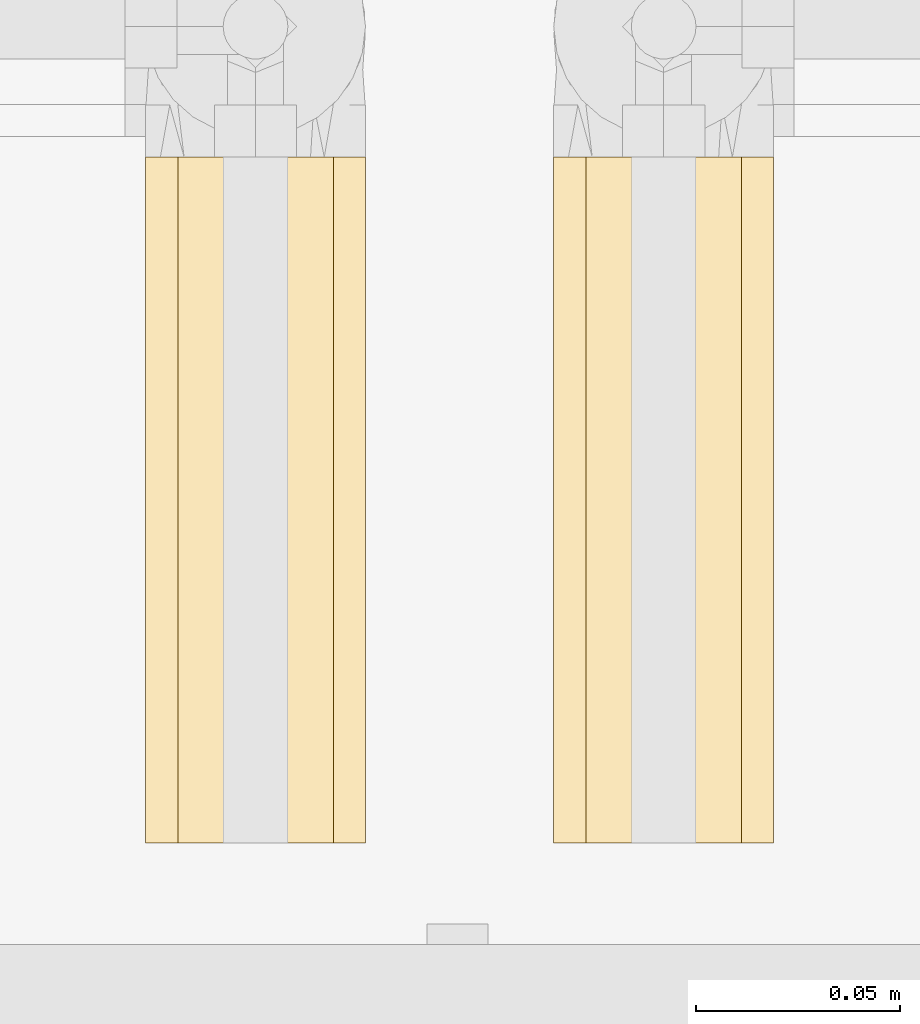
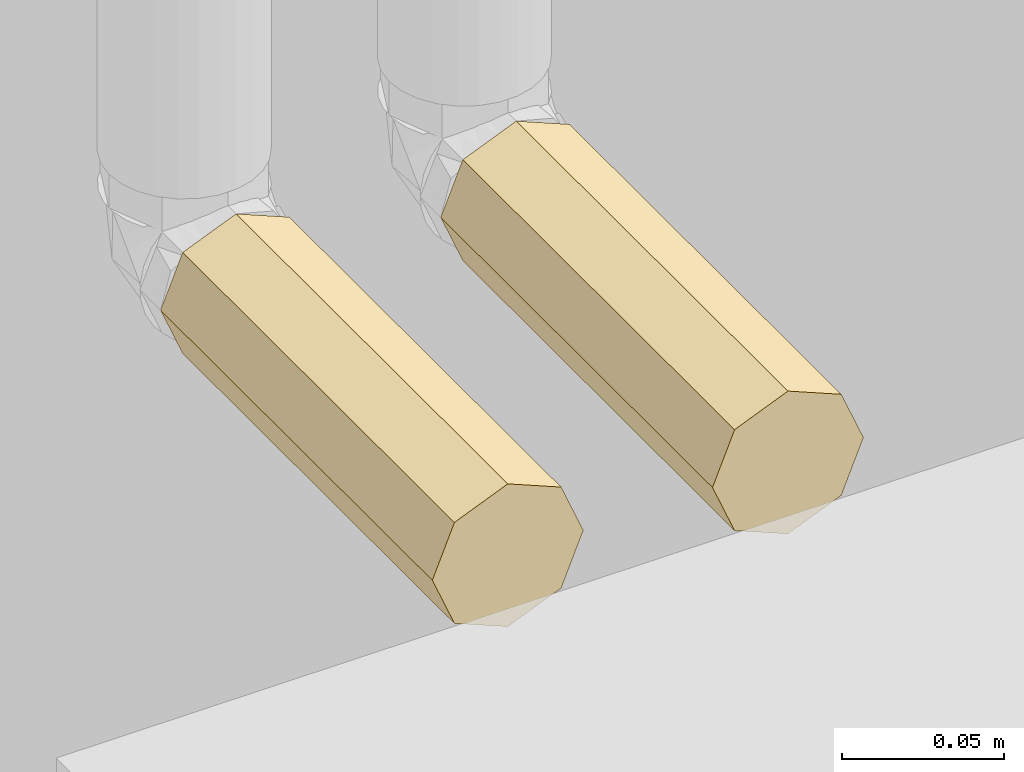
# One storey, part 198 of 652: 2 coverings.
"""IFC2X3 building model written with IfcOpenShell, lengths in millimetres."""

from ifc_helpers import new_model, entity, si_unit, converted_unit, direction, frame, origin, place, context, subcontext, project, spatial, faceted_brep, material, type_object, element, save


model = new_model("IFC2X3")

# Units and contexts
model_context = context("Model", 3, precision=0.01, world=frame((0.0, 0.0, 308426.39999999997)), true_north=direction((6.123233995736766e-17, 1.0)))
plan_context = context("Plan", 3, precision=0.01, world=frame((0.0, 0.0, 308426.39999999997)), true_north=direction((6.123233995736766e-17, 1.0)))
body_context = subcontext(model_context, "Body", "Model", "MODEL_VIEW")
ifc_project = project(units=[si_unit("LENGTHUNIT", "METRE", prefix="MILLI"), si_unit("AREAUNIT", "SQUARE_METRE"), si_unit("VOLUMEUNIT", "CUBIC_METRE"), converted_unit("PLANEANGLEUNIT", "DEGREE", entity("IfcPlaneAngleMeasure", 0.017453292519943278), si_unit("PLANEANGLEUNIT", "RADIAN"), dimensions=[0, 0, 0, 0, 0, 0, 0])], contexts=[model_context, plan_context])

# Site, building, storey
site_placement = place(None, origin())
site = spatial("IfcSite", under=ifc_project, at=site_placement, Name="Default", CompositionType="ELEMENT")
building_placement = place(site_placement, origin())
building = spatial("IfcBuilding", under=site, at=building_placement, CompositionType="ELEMENT")
storey_placement = place(building_placement, frame((0.0, 0.0, 1730.6999999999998)))
storey = spatial("IfcBuildingStorey", under=building, at=storey_placement, Name="EG_Produktion_FFB", CompositionType="ELEMENT", Elevation=1730.6999999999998)

# Coverings
ifc_material = material(Name="Dämmung - Armaflex-Schlauch")
covering_type = type_object("IfcCoveringType", Name="Rohrdämmung außen:Armaflex-Schlauch", PredefinedType="INSULATION")
covering_1_placement = place(storey_placement, frame((66296.95799511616, 55254.84765995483, 2671.4672277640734)))
element("IfcCovering", 1, at=covering_1_placement, inside=storey, type_object=covering_type, material=ifc_material, Name="Rohrdämmung außen:Armaflex-Schlauch", ObjectType="Rohrdämmung außen:Armaflex-Schlauch", PredefinedType="INSULATION", context=body_context, shape_type="Brep", body=[
    faceted_brep([(28.532772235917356, 168.01625000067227, 1.5952722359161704), (23.967206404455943, 168.01625000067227, 3.486391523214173), (19.008927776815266, 168.01625000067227, 5.540177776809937), (14.247005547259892, 168.01625000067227, 7.512630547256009), (9.485083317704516, 168.01625000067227, 9.485083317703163), (7.512630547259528, 168.01625000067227, 14.247005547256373), (5.54017777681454, 168.01625000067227, 19.008927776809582), (3.567725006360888, 168.01625000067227, 23.770850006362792), (1.5952722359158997, 168.01625000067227, 28.532772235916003), (3.4863915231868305, 168.01625000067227, 33.0983380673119), (5.54017777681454, 168.01625000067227, 38.05661669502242), (7.512630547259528, 168.01625000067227, 42.818538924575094), (9.485083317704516, 168.01625000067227, 47.5804611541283), (14.247005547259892, 168.01625000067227, 49.552913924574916), (19.008927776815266, 168.01625000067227, 51.525366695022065), (23.77085000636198, 168.01625000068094, 53.49781946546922), (28.532772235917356, 168.01625000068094, 55.470272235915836), (33.0983380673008, 168.01625000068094, 53.57915294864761), (38.05661669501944, 168.01625000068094, 51.525366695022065), (42.818538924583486, 168.01625000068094, 49.552913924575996), (47.5804611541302, 168.01625000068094, 47.58046115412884), (49.552913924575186, 168.01625000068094, 42.818538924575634), (51.525366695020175, 168.01625000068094, 38.05661669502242), (53.497819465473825, 168.0162500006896, 33.29469446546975), (55.47027223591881, 168.01625000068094, 28.532772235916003), (53.497819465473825, 168.01625000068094, 23.770850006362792), (51.525366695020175, 168.01625000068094, 19.008927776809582), (49.552913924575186, 168.01625000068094, 14.247005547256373), (47.5804611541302, 168.01625000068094, 9.485083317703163), (42.81853892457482, 168.01625000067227, 7.512630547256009), (38.05661669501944, 168.01625000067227, 5.540177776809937), (33.29469446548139, 168.01625000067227, 3.567725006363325), (28.532772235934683, 0.0, 1.5952722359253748), (33.09833807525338, 0.0, 3.48639152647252), (37.663903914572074, 0.0, 5.3775108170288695), (42.62218253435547, 0.0, 7.4312970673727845), (47.58046115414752, 0.0, 9.485083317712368), (49.55291392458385, 0.0, 14.247005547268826), (51.5253666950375, 0.0, 19.008927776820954), (53.497819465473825, 0.0, 23.770850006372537), (55.470272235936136, 0.0, 28.532772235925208), (53.57915294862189, 0.0, 33.09833806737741), (51.68803366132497, 0.0, 37.66390389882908), (49.63424740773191, 0.0, 42.6221825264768), (47.58046115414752, 0.0, 47.58046115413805), (42.818538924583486, 0.0, 49.55291392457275), (38.05661669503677, 0.0, 51.525366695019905), (33.29469446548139, 0.0, 53.49781946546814), (28.532772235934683, 0.0, 55.47027223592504), (23.96720640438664, 0.0, 53.57915294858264), (19.401640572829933, 0.0, 51.6880336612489), (14.443361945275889, 0.0, 49.63424740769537), (9.485083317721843, 0.0, 47.5804611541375), (7.512630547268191, 0.0, 42.81853892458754), (5.54017777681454, 0.0, 38.05661669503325), (3.567725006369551, 0.0, 33.2946944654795), (1.5952722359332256, 0.0, 28.532772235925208), (3.4863915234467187, 0.0, 23.96720640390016), (5.377510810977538, 0.0, 19.401640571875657), (7.431297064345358, 0.0, 14.443361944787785), (9.485083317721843, 0.0, 9.485083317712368), (14.247005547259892, 0.0, 7.512630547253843), (19.008927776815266, 0.0, 5.540177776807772), (23.770850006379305, 0.0, 3.5677250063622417)], [[[0, 1, 2, 3, 4, 5, 6, 7, 8, 9, 10, 11, 12, 13, 14, 15, 16, 17, 18, 19, 20, 21, 22, 23, 24, 25, 26, 27, 28, 29, 30, 31]], [[32, 33, 34, 35, 36, 37, 38, 39, 40, 41, 42, 43, 44, 45, 46, 47, 48, 49, 50, 51, 52, 53, 54, 55, 56, 57, 58, 59, 60, 61, 62, 63]], [[38, 37, 36, 28, 27, 26, 25, 24, 40, 39]], [[34, 33, 32, 0, 31, 30, 29, 28, 36, 35]], [[1, 0, 32, 63, 62, 61, 60, 4, 3, 2]], [[4, 60, 59, 58, 57, 56, 8, 7, 6, 5]], [[9, 8, 56, 55, 54, 53, 52, 12, 11, 10]], [[12, 52, 51, 50, 49, 48, 16, 15, 14, 13]], [[17, 16, 48, 47, 46, 45, 44, 20, 19, 18]], [[20, 44, 43, 42, 41, 40, 24, 23, 22, 21]]]),
])
covering_2_placement = place(storey_placement, frame((66196.95799511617, 55254.84765995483, 2671.467227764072)))
element("IfcCovering", 2, at=covering_2_placement, inside=storey, type_object=covering_type, material=ifc_material, Name="Rohrdämmung außen:Armaflex-Schlauch", ObjectType="Rohrdämmung außen:Armaflex-Schlauch", PredefinedType="INSULATION", context=body_context, shape_type="Brep", body=[
    faceted_brep([(28.532772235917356, 168.01625000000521, 1.5952722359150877), (23.967206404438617, 168.01625000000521, 3.48639152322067), (19.008927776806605, 168.01625000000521, 5.5401777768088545), (14.247005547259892, 168.01625000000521, 7.512630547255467), (9.485083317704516, 168.01625000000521, 9.48508331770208), (7.512630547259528, 168.01625000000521, 14.24700554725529), (5.540177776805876, 168.01625000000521, 19.0089277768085), (3.567725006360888, 168.01625000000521, 23.77085000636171), (1.5952722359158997, 168.01625000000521, 28.53277223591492), (3.4863915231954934, 168.01625000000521, 33.09833806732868), (5.540177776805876, 168.01625000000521, 38.05661669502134), (7.512630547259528, 168.01625000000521, 42.81853892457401), (9.485083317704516, 168.01625000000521, 47.58046115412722), (14.247005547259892, 168.01625000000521, 49.55291392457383), (19.008927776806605, 168.01625000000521, 51.525366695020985), (23.77085000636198, 168.01625000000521, 53.49781946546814), (28.532772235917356, 168.01625000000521, 55.47027223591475), (33.09833806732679, 168.01625000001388, 53.57915294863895), (38.056616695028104, 168.01625000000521, 51.525366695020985), (42.818538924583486, 168.01625000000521, 49.55291392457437), (47.5804611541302, 168.01625000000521, 47.58046115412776), (49.552913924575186, 168.01625000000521, 42.81853892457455), (51.525366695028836, 168.01625000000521, 38.05661669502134), (53.497819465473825, 168.01625000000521, 33.294694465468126), (55.47027223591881, 168.01625000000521, 28.53277223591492), (53.497819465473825, 168.01625000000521, 23.77085000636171), (51.525366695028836, 168.01625000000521, 19.0089277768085), (49.55291392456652, 168.01624999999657, 14.24700554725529), (47.5804611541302, 168.01625000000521, 9.48508331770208), (42.81853892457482, 168.01625000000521, 7.512630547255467), (38.056616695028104, 168.01625000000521, 5.5401777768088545), (33.29469446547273, 168.01625000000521, 3.5677250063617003), (28.532772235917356, 0.0, 1.5952722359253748), (33.09833807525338, 0.0, 3.4863915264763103), (37.663903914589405, 0.0, 5.3775108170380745), (42.62218253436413, 0.0, 7.4312970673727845), (47.5804611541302, 0.0, 9.485083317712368), (49.55291392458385, 0.0, 14.247005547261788), (51.525366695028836, 0.0, 19.00892777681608), (53.497819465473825, 0.0, 23.770850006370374), (55.47027223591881, 0.0, 28.532772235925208), (53.57915294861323, 0.0, 33.0983380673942), (51.68803366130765, 0.0, 37.66390389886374), (49.63424740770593, 0.0, 42.622182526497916), (47.5804611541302, 0.0, 47.58046115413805), (42.818538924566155, 0.0, 49.552913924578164), (38.05661669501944, 0.0, 51.52536669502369), (33.29469446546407, 0.0, 53.49781946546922), (28.532772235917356, 0.0, 55.47027223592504), (23.967206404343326, 0.0, 53.57915294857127), (19.401640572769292, 0.0, 51.688033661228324), (14.443361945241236, 0.0, 49.634247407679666), (9.485083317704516, 0.0, 47.5804611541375), (7.512630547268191, 0.0, 42.81853892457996), (5.54017777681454, 0.0, 38.05661669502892), (3.567725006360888, 0.0, 33.294694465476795), (1.5952722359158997, 0.0, 28.532772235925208), (3.4863915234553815, 0.0, 23.967206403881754), (5.377510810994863, 0.0, 19.40164057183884), (7.431297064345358, 0.0, 14.443361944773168), (9.485083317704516, 0.0, 9.485083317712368), (14.247005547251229, 0.0, 7.512630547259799), (19.008927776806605, 0.0, 5.54017777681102), (23.77085000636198, 0.0, 3.567725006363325)], [[[0, 1, 2, 3, 4, 5, 6, 7, 8, 9, 10, 11, 12, 13, 14, 15, 16, 17, 18, 19, 20, 21, 22, 23, 24, 25, 26, 27, 28, 29, 30, 31]], [[32, 33, 34, 35, 36, 37, 38, 39, 40, 41, 42, 43, 44, 45, 46, 47, 48, 49, 50, 51, 52, 53, 54, 55, 56, 57, 58, 59, 60, 61, 62, 63]], [[38, 37, 36, 28, 27, 26, 25, 24, 40, 39]], [[34, 33, 32, 0, 31, 30, 29, 28, 36, 35]], [[1, 0, 32, 63, 62, 61, 60, 4, 3, 2]], [[4, 60, 59, 58, 57, 56, 8, 7, 6, 5]], [[9, 8, 56, 55, 54, 53, 52, 12, 11, 10]], [[12, 52, 51, 50, 49, 48, 16, 15, 14, 13]], [[17, 16, 48, 47, 46, 45, 44, 20, 19, 18]], [[20, 44, 43, 42, 41, 40, 24, 23, 22, 21]]]),
])

save(model, "model.ifc")
